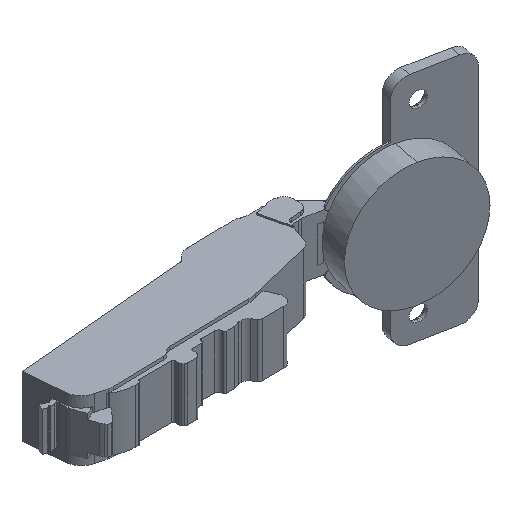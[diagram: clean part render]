
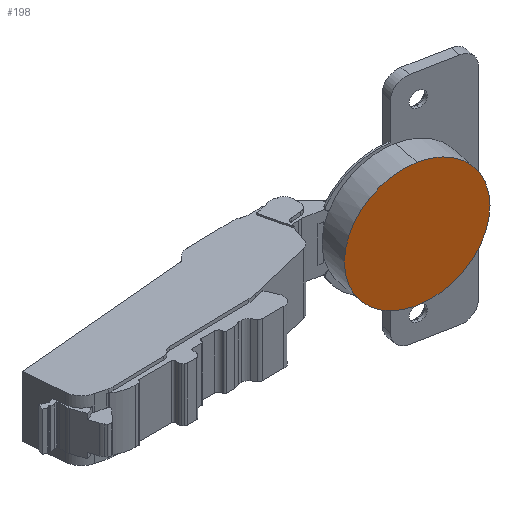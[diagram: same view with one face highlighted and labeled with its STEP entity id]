
A CAD part, isometric view. The second image highlights one B-rep face of the part: STEP entity #198.
In plain terms, the highlighted planar face has unit normal (-0.193, -0.981, 0).
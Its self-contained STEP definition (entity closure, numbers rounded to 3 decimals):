
#198 = ADVANCED_FACE ( 'NONE', ( #386 ), #4917, .F. ) ;
#249 = AXIS2_PLACEMENT_3D ( 'NONE', #6025, #3902, #2426 ) ;
#386 = FACE_OUTER_BOUND ( 'NONE', #2399, .T. ) ;
#402 = DIRECTION ( 'NONE',  ( -0.193, -0.981, 0. ) ) ;
#703 = AXIS2_PLACEMENT_3D ( 'NONE', #5615, #4014, #3076 ) ;
#955 = DIRECTION ( 'NONE',  ( 0.981, -0.193, 0. ) ) ;
#1595 = VERTEX_POINT ( 'NONE', #3073 ) ;
#1670 = CIRCLE ( 'NONE', #703, 17.4 ) ;
#2399 = EDGE_LOOP ( 'NONE', ( #5786, #4142 ) ) ;
#2426 = DIRECTION ( 'NONE',  ( 0., 0., 1. ) ) ;
#2451 = CARTESIAN_POINT ( 'NONE',  ( 14.921, -24.706, 17.4 ) ) ;
#3073 = CARTESIAN_POINT ( 'NONE',  ( 14.921, -24.706, -17.4 ) ) ;
#3076 = DIRECTION ( 'NONE',  ( 0.981, -0.193, 0. ) ) ;
#3251 = AXIS2_PLACEMENT_3D ( 'NONE', #3443, #402, #955 ) ;
#3443 = CARTESIAN_POINT ( 'NONE',  ( 14.921, -24.706, 0. ) ) ;
#3617 = VERTEX_POINT ( 'NONE', #2451 ) ;
#3849 = EDGE_CURVE ( 'NONE', #1595, #3617, #5080, .T. ) ;
#3902 = DIRECTION ( 'NONE',  ( 0.193, 0.981, 0. ) ) ;
#4014 = DIRECTION ( 'NONE',  ( -0.193, -0.981, 0. ) ) ;
#4142 = ORIENTED_EDGE ( 'NONE', *, *, #3849, .T. ) ;
#4475 = EDGE_CURVE ( 'NONE', #3617, #1595, #1670, .T. ) ;
#4917 = PLANE ( 'NONE',  #249 ) ;
#5080 = CIRCLE ( 'NONE', #3251, 17.4 ) ;
#5615 = CARTESIAN_POINT ( 'NONE',  ( 14.921, -24.706, 0. ) ) ;
#5786 = ORIENTED_EDGE ( 'NONE', *, *, #4475, .T. ) ;
#6025 = CARTESIAN_POINT ( 'NONE',  ( 25.682, -26.82, -7.7 ) ) ;
